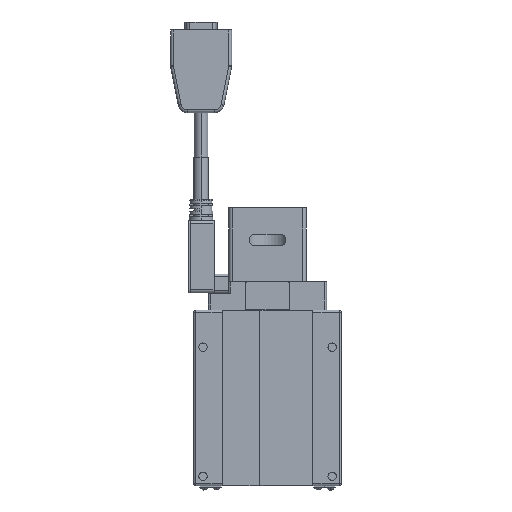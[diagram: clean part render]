
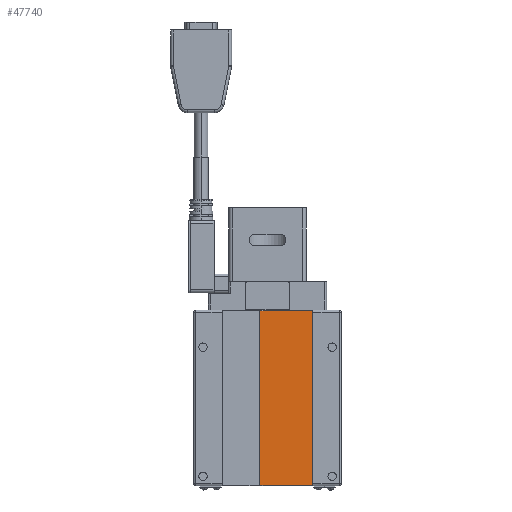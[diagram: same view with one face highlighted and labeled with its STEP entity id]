
A CAD part, front view. The second image highlights one B-rep face of the part: STEP entity #47740.
In plain terms, the highlighted planar face has unit normal (0, -1, 0).
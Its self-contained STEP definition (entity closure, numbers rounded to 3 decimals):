
#140 = VECTOR ( 'NONE', #25975, 1000. ) ;
#585 = LINE ( 'NONE', #70397, #57803 ) ;
#1024 = EDGE_CURVE ( 'NONE', #56919, #47633, #73941, .T. ) ;
#1391 = DIRECTION ( 'NONE',  ( -1., 0., 0. ) ) ;
#1558 = ORIENTED_EDGE ( 'NONE', *, *, #73909, .F. ) ;
#3704 = CARTESIAN_POINT ( 'NONE',  ( -4.1, 0.3, 0. ) ) ;
#4067 = DIRECTION ( 'NONE',  ( 0., 0., -1. ) ) ;
#13642 = CARTESIAN_POINT ( 'NONE',  ( -4.1, 0.3, 94.714 ) ) ;
#17332 = ORIENTED_EDGE ( 'NONE', *, *, #1024, .F. ) ;
#22053 = VECTOR ( 'NONE', #73549, 1000. ) ;
#22164 = PLANE ( 'NONE',  #66983 ) ;
#25975 = DIRECTION ( 'NONE',  ( 1., 0., 0. ) ) ;
#29711 = CARTESIAN_POINT ( 'NONE',  ( 24.5, 0.3, 0.286 ) ) ;
#34392 = DIRECTION ( 'NONE',  ( 0., 1., 0. ) ) ;
#39333 = DIRECTION ( 'NONE',  ( 0., 0., 1. ) ) ;
#40401 = LINE ( 'NONE', #65361, #64609 ) ;
#41891 = ORIENTED_EDGE ( 'NONE', *, *, #51658, .T. ) ;
#44692 = VERTEX_POINT ( 'NONE', #29711 ) ;
#47633 = VERTEX_POINT ( 'NONE', #13642 ) ;
#47740 = ADVANCED_FACE ( 'NONE', ( #77344 ), #22164, .F. ) ;
#50531 = CARTESIAN_POINT ( 'NONE',  ( -4.1, 0.3, 0.286 ) ) ;
#51658 = EDGE_CURVE ( 'NONE', #56919, #44692, #69311, .T. ) ;
#53258 = CARTESIAN_POINT ( 'NONE',  ( -4.1, 0.3, 0.286 ) ) ;
#54693 = ORIENTED_EDGE ( 'NONE', *, *, #68853, .T. ) ;
#56919 = VERTEX_POINT ( 'NONE', #53258 ) ;
#57803 = VECTOR ( 'NONE', #1391, 1000. ) ;
#63996 = CARTESIAN_POINT ( 'NONE',  ( 24.5, 0.3, 94.714 ) ) ;
#64367 = EDGE_LOOP ( 'NONE', ( #17332, #41891, #1558, #54693 ) ) ;
#64609 = VECTOR ( 'NONE', #4067, 1000. ) ;
#65361 = CARTESIAN_POINT ( 'NONE',  ( 24.5, 0.3, 95. ) ) ;
#66983 = AXIS2_PLACEMENT_3D ( 'NONE', #71193, #34392, #39333 ) ;
#68853 = EDGE_CURVE ( 'NONE', #78341, #47633, #585, .T. ) ;
#69311 = LINE ( 'NONE', #50531, #140 ) ;
#70397 = CARTESIAN_POINT ( 'NONE',  ( 24.5, 0.3, 94.714 ) ) ;
#71193 = CARTESIAN_POINT ( 'NONE',  ( 24.5, 0.3, 95. ) ) ;
#73549 = DIRECTION ( 'NONE',  ( 0., 0., 1. ) ) ;
#73909 = EDGE_CURVE ( 'NONE', #78341, #44692, #40401, .T. ) ;
#73941 = LINE ( 'NONE', #3704, #22053 ) ;
#77344 = FACE_OUTER_BOUND ( 'NONE', #64367, .T. ) ;
#78341 = VERTEX_POINT ( 'NONE', #63996 ) ;
